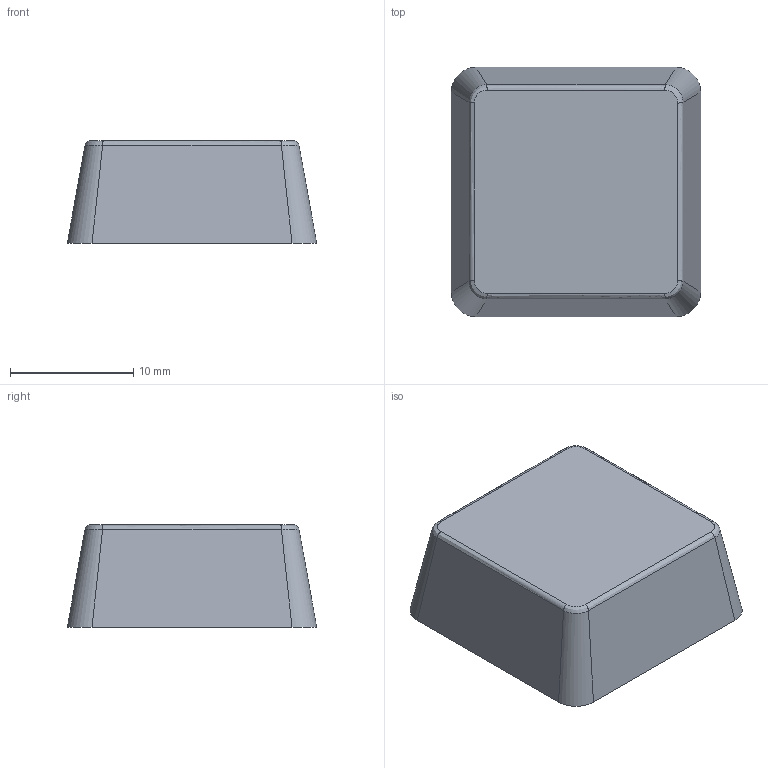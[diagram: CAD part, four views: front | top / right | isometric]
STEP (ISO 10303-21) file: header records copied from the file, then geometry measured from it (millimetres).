
FILE_DESCRIPTION(('Open CASCADE Model'),'2;1');
FILE_NAME('Open CASCADE Shape Model','2026-10-06T21:38:25',('Author'),( 'Open CASCADE'),'Open CASCADE STEP processor 7.9','Open CASCADE 7.9' ,'Unknown');
FILE_SCHEMA(('AUTOMOTIVE_DESIGN { 1 0 10303 214 1 1 1 1 }'));
Length unit declared in the file: millimetre
Products named in the file (1): Open CASCADE STEP translator 7.9 3
Bounding box: 20.2 x 20.2 x 8.3 mm (x, y, z)
Volume: 1728 mm3; surface area: 1634.1 mm2
Topology: 1 solids, 1 shells, 70 faces, 187 edges, 122 vertices
Faces by surface type: bspline 52, plane 17, cylinder 1
Full cylindrical faces by diameter (mm): 5.3 x1
Entity records: 5458 total; most frequent: CARTESIAN_POINT 2387, ORIENTED_EDGE 374, PCURVE 374, DEFINITIONAL_REPRESENTATION 374, DIRECTION 326, LINE 273, VECTOR 273, B_SPLINE_CURVE_WITH_KNOTS 252
